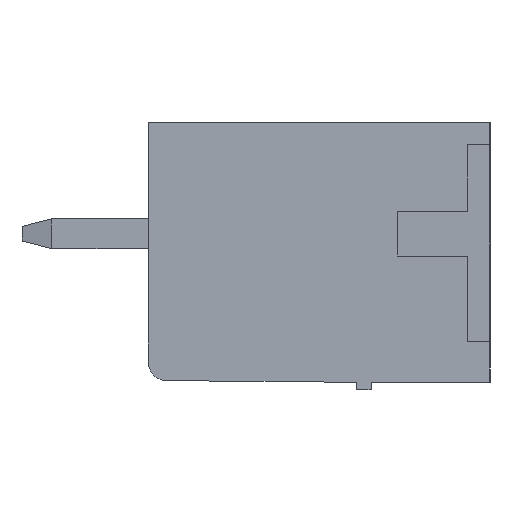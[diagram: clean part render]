
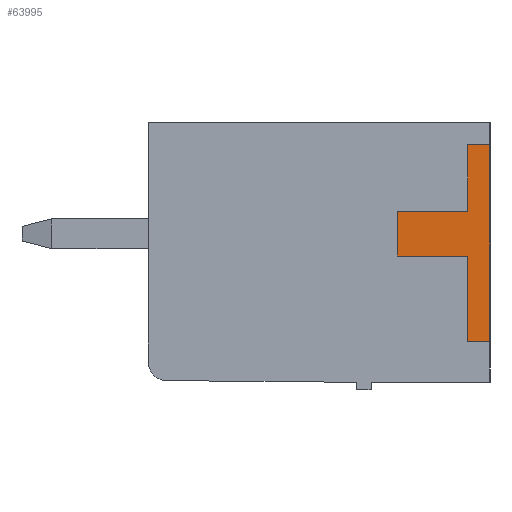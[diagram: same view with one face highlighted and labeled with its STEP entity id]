
A CAD part, left-side view. The second image highlights one B-rep face of the part: STEP entity #63995.
In plain terms, the highlighted planar face has unit normal (-1, 0, 0).
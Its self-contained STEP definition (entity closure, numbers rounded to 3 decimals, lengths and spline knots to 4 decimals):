
#100 = PLANE('',#101);
#101 = AXIS2_PLACEMENT_3D('',#102,#103,#104);
#102 = CARTESIAN_POINT('',(0.,0.,7.));
#103 = DIRECTION('',(0.,-1.,0.));
#104 = DIRECTION('',(0.,0.,-1.));
#128 = PLANE('',#129);
#129 = AXIS2_PLACEMENT_3D('',#130,#131,#132);
#130 = CARTESIAN_POINT('',(0.,0.,6.4));
#131 = DIRECTION('',(0.,0.,1.));
#132 = DIRECTION('',(0.,1.,0.));
#156 = PLANE('',#157);
#157 = AXIS2_PLACEMENT_3D('',#158,#159,#160);
#158 = CARTESIAN_POINT('',(0.,0.6,6.4));
#159 = DIRECTION('',(0.,1.,0.));
#160 = DIRECTION('',(0.,0.,-1.));
#184 = PLANE('',#185);
#185 = AXIS2_PLACEMENT_3D('',#186,#187,#188);
#186 = CARTESIAN_POINT('',(0.,0.6,4.6));
#187 = DIRECTION('',(0.,0.,1.));
#188 = DIRECTION('',(0.,1.,0.));
#212 = PLANE('',#213);
#213 = AXIS2_PLACEMENT_3D('',#214,#215,#216);
#214 = CARTESIAN_POINT('',(0.,2.5,4.6));
#215 = DIRECTION('',(0.,1.,0.));
#216 = DIRECTION('',(0.,0.,-1.));
#240 = PLANE('',#241);
#241 = AXIS2_PLACEMENT_3D('',#242,#243,#244);
#242 = CARTESIAN_POINT('',(0.,2.5,3.4));
#243 = DIRECTION('',(0.,0.,-1.));
#244 = DIRECTION('',(0.,-1.,0.));
#268 = PLANE('',#269);
#269 = AXIS2_PLACEMENT_3D('',#270,#271,#272);
#270 = CARTESIAN_POINT('',(0.,0.6,3.4));
#271 = DIRECTION('',(0.,1.,0.));
#272 = DIRECTION('',(0.,0.,-1.));
#296 = PLANE('',#297);
#297 = AXIS2_PLACEMENT_3D('',#298,#299,#300);
#298 = CARTESIAN_POINT('',(0.,0.6,1.1));
#299 = DIRECTION('',(0.,0.,-1.));
#300 = DIRECTION('',(0.,-1.,0.));
#7968 = VERTEX_POINT('',#7969);
#7969 = CARTESIAN_POINT('',(-0.2,0.,1.1));
#7990 = EDGE_CURVE('',#7968,#7991,#7993,.T.);
#7991 = VERTEX_POINT('',#7992);
#7992 = CARTESIAN_POINT('',(-0.2,0.,6.4));
#7993 = SURFACE_CURVE('',#7994,(#7998,#8005),.PCURVE_S1.);
#7994 = LINE('',#7995,#7996);
#7995 = CARTESIAN_POINT('',(-0.2,0.,1.1));
#7996 = VECTOR('',#7997,1.);
#7997 = DIRECTION('',(0.,0.,1.));
#7998 = PCURVE('',#100,#7999);
#7999 = DEFINITIONAL_REPRESENTATION('',(#8000),#8004);
#8000 = LINE('',#8001,#8002);
#8001 = CARTESIAN_POINT('',(5.9,-0.2));
#8002 = VECTOR('',#8003,1.);
#8003 = DIRECTION('',(-1.,0.));
#8004 = ( GEOMETRIC_REPRESENTATION_CONTEXT(2) 
PARAMETRIC_REPRESENTATION_CONTEXT() REPRESENTATION_CONTEXT('2D SPACE',''
  ) );
#8005 = PCURVE('',#8006,#8011);
#8006 = PLANE('',#8007);
#8007 = AXIS2_PLACEMENT_3D('',#8008,#8009,#8010);
#8008 = CARTESIAN_POINT('',(-0.2,0.,0.));
#8009 = DIRECTION('',(-1.,0.,0.));
#8010 = DIRECTION('',(0.,0.,1.));
#8011 = DEFINITIONAL_REPRESENTATION('',(#8012),#8016);
#8012 = LINE('',#8013,#8014);
#8013 = CARTESIAN_POINT('',(1.1,0.));
#8014 = VECTOR('',#8015,1.);
#8015 = DIRECTION('',(1.,0.));
#8016 = ( GEOMETRIC_REPRESENTATION_CONTEXT(2) 
PARAMETRIC_REPRESENTATION_CONTEXT() REPRESENTATION_CONTEXT('2D SPACE',''
  ) );
#63680 = VERTEX_POINT('',#63681);
#63681 = CARTESIAN_POINT('',(-0.2,0.6,1.1));
#63702 = EDGE_CURVE('',#63680,#7968,#63703,.T.);
#63703 = SURFACE_CURVE('',#63704,(#63708,#63715),.PCURVE_S1.);
#63704 = LINE('',#63705,#63706);
#63705 = CARTESIAN_POINT('',(-0.2,0.6,1.1));
#63706 = VECTOR('',#63707,1.);
#63707 = DIRECTION('',(0.,-1.,0.));
#63708 = PCURVE('',#296,#63709);
#63709 = DEFINITIONAL_REPRESENTATION('',(#63710),#63714);
#63710 = LINE('',#63711,#63712);
#63711 = CARTESIAN_POINT('',(0.,0.2));
#63712 = VECTOR('',#63713,1.);
#63713 = DIRECTION('',(1.,0.));
#63714 = ( GEOMETRIC_REPRESENTATION_CONTEXT(2) 
PARAMETRIC_REPRESENTATION_CONTEXT() REPRESENTATION_CONTEXT('2D SPACE',''
  ) );
#63715 = PCURVE('',#8006,#63716);
#63716 = DEFINITIONAL_REPRESENTATION('',(#63717),#63721);
#63717 = LINE('',#63718,#63719);
#63718 = CARTESIAN_POINT('',(1.1,0.6));
#63719 = VECTOR('',#63720,1.);
#63720 = DIRECTION('',(0.,-1.));
#63721 = ( GEOMETRIC_REPRESENTATION_CONTEXT(2) 
PARAMETRIC_REPRESENTATION_CONTEXT() REPRESENTATION_CONTEXT('2D SPACE',''
  ) );
#63729 = VERTEX_POINT('',#63730);
#63730 = CARTESIAN_POINT('',(-0.2,0.6,3.4));
#63751 = EDGE_CURVE('',#63729,#63680,#63752,.T.);
#63752 = SURFACE_CURVE('',#63753,(#63757,#63764),.PCURVE_S1.);
#63753 = LINE('',#63754,#63755);
#63754 = CARTESIAN_POINT('',(-0.2,0.6,3.4));
#63755 = VECTOR('',#63756,1.);
#63756 = DIRECTION('',(0.,0.,-1.));
#63757 = PCURVE('',#268,#63758);
#63758 = DEFINITIONAL_REPRESENTATION('',(#63759),#63763);
#63759 = LINE('',#63760,#63761);
#63760 = CARTESIAN_POINT('',(0.,0.2));
#63761 = VECTOR('',#63762,1.);
#63762 = DIRECTION('',(1.,0.));
#63763 = ( GEOMETRIC_REPRESENTATION_CONTEXT(2) 
PARAMETRIC_REPRESENTATION_CONTEXT() REPRESENTATION_CONTEXT('2D SPACE',''
  ) );
#63764 = PCURVE('',#8006,#63765);
#63765 = DEFINITIONAL_REPRESENTATION('',(#63766),#63770);
#63766 = LINE('',#63767,#63768);
#63767 = CARTESIAN_POINT('',(3.4,0.6));
#63768 = VECTOR('',#63769,1.);
#63769 = DIRECTION('',(-1.,0.));
#63770 = ( GEOMETRIC_REPRESENTATION_CONTEXT(2) 
PARAMETRIC_REPRESENTATION_CONTEXT() REPRESENTATION_CONTEXT('2D SPACE',''
  ) );
#63778 = VERTEX_POINT('',#63779);
#63779 = CARTESIAN_POINT('',(-0.2,2.5,3.4));
#63800 = EDGE_CURVE('',#63778,#63729,#63801,.T.);
#63801 = SURFACE_CURVE('',#63802,(#63806,#63813),.PCURVE_S1.);
#63802 = LINE('',#63803,#63804);
#63803 = CARTESIAN_POINT('',(-0.2,2.5,3.4));
#63804 = VECTOR('',#63805,1.);
#63805 = DIRECTION('',(0.,-1.,0.));
#63806 = PCURVE('',#240,#63807);
#63807 = DEFINITIONAL_REPRESENTATION('',(#63808),#63812);
#63808 = LINE('',#63809,#63810);
#63809 = CARTESIAN_POINT('',(0.,0.2));
#63810 = VECTOR('',#63811,1.);
#63811 = DIRECTION('',(1.,0.));
#63812 = ( GEOMETRIC_REPRESENTATION_CONTEXT(2) 
PARAMETRIC_REPRESENTATION_CONTEXT() REPRESENTATION_CONTEXT('2D SPACE',''
  ) );
#63813 = PCURVE('',#8006,#63814);
#63814 = DEFINITIONAL_REPRESENTATION('',(#63815),#63819);
#63815 = LINE('',#63816,#63817);
#63816 = CARTESIAN_POINT('',(3.4,2.5));
#63817 = VECTOR('',#63818,1.);
#63818 = DIRECTION('',(0.,-1.));
#63819 = ( GEOMETRIC_REPRESENTATION_CONTEXT(2) 
PARAMETRIC_REPRESENTATION_CONTEXT() REPRESENTATION_CONTEXT('2D SPACE',''
  ) );
#63827 = VERTEX_POINT('',#63828);
#63828 = CARTESIAN_POINT('',(-0.2,2.5,4.6));
#63849 = EDGE_CURVE('',#63827,#63778,#63850,.T.);
#63850 = SURFACE_CURVE('',#63851,(#63855,#63862),.PCURVE_S1.);
#63851 = LINE('',#63852,#63853);
#63852 = CARTESIAN_POINT('',(-0.2,2.5,4.6));
#63853 = VECTOR('',#63854,1.);
#63854 = DIRECTION('',(0.,0.,-1.));
#63855 = PCURVE('',#212,#63856);
#63856 = DEFINITIONAL_REPRESENTATION('',(#63857),#63861);
#63857 = LINE('',#63858,#63859);
#63858 = CARTESIAN_POINT('',(0.,0.2));
#63859 = VECTOR('',#63860,1.);
#63860 = DIRECTION('',(1.,0.));
#63861 = ( GEOMETRIC_REPRESENTATION_CONTEXT(2) 
PARAMETRIC_REPRESENTATION_CONTEXT() REPRESENTATION_CONTEXT('2D SPACE',''
  ) );
#63862 = PCURVE('',#8006,#63863);
#63863 = DEFINITIONAL_REPRESENTATION('',(#63864),#63868);
#63864 = LINE('',#63865,#63866);
#63865 = CARTESIAN_POINT('',(4.6,2.5));
#63866 = VECTOR('',#63867,1.);
#63867 = DIRECTION('',(-1.,0.));
#63868 = ( GEOMETRIC_REPRESENTATION_CONTEXT(2) 
PARAMETRIC_REPRESENTATION_CONTEXT() REPRESENTATION_CONTEXT('2D SPACE',''
  ) );
#63876 = VERTEX_POINT('',#63877);
#63877 = CARTESIAN_POINT('',(-0.2,0.6,4.6));
#63898 = EDGE_CURVE('',#63876,#63827,#63899,.T.);
#63899 = SURFACE_CURVE('',#63900,(#63904,#63911),.PCURVE_S1.);
#63900 = LINE('',#63901,#63902);
#63901 = CARTESIAN_POINT('',(-0.2,0.6,4.6));
#63902 = VECTOR('',#63903,1.);
#63903 = DIRECTION('',(0.,1.,0.));
#63904 = PCURVE('',#184,#63905);
#63905 = DEFINITIONAL_REPRESENTATION('',(#63906),#63910);
#63906 = LINE('',#63907,#63908);
#63907 = CARTESIAN_POINT('',(0.,0.2));
#63908 = VECTOR('',#63909,1.);
#63909 = DIRECTION('',(1.,0.));
#63910 = ( GEOMETRIC_REPRESENTATION_CONTEXT(2) 
PARAMETRIC_REPRESENTATION_CONTEXT() REPRESENTATION_CONTEXT('2D SPACE',''
  ) );
#63911 = PCURVE('',#8006,#63912);
#63912 = DEFINITIONAL_REPRESENTATION('',(#63913),#63917);
#63913 = LINE('',#63914,#63915);
#63914 = CARTESIAN_POINT('',(4.6,0.6));
#63915 = VECTOR('',#63916,1.);
#63916 = DIRECTION('',(0.,1.));
#63917 = ( GEOMETRIC_REPRESENTATION_CONTEXT(2) 
PARAMETRIC_REPRESENTATION_CONTEXT() REPRESENTATION_CONTEXT('2D SPACE',''
  ) );
#63925 = VERTEX_POINT('',#63926);
#63926 = CARTESIAN_POINT('',(-0.2,0.6,6.4));
#63947 = EDGE_CURVE('',#63925,#63876,#63948,.T.);
#63948 = SURFACE_CURVE('',#63949,(#63953,#63960),.PCURVE_S1.);
#63949 = LINE('',#63950,#63951);
#63950 = CARTESIAN_POINT('',(-0.2,0.6,6.4));
#63951 = VECTOR('',#63952,1.);
#63952 = DIRECTION('',(0.,0.,-1.));
#63953 = PCURVE('',#156,#63954);
#63954 = DEFINITIONAL_REPRESENTATION('',(#63955),#63959);
#63955 = LINE('',#63956,#63957);
#63956 = CARTESIAN_POINT('',(0.,0.2));
#63957 = VECTOR('',#63958,1.);
#63958 = DIRECTION('',(1.,0.));
#63959 = ( GEOMETRIC_REPRESENTATION_CONTEXT(2) 
PARAMETRIC_REPRESENTATION_CONTEXT() REPRESENTATION_CONTEXT('2D SPACE',''
  ) );
#63960 = PCURVE('',#8006,#63961);
#63961 = DEFINITIONAL_REPRESENTATION('',(#63962),#63966);
#63962 = LINE('',#63963,#63964);
#63963 = CARTESIAN_POINT('',(6.4,0.6));
#63964 = VECTOR('',#63965,1.);
#63965 = DIRECTION('',(-1.,0.));
#63966 = ( GEOMETRIC_REPRESENTATION_CONTEXT(2) 
PARAMETRIC_REPRESENTATION_CONTEXT() REPRESENTATION_CONTEXT('2D SPACE',''
  ) );
#63974 = EDGE_CURVE('',#7991,#63925,#63975,.T.);
#63975 = SURFACE_CURVE('',#63976,(#63980,#63987),.PCURVE_S1.);
#63976 = LINE('',#63977,#63978);
#63977 = CARTESIAN_POINT('',(-0.2,0.,6.4));
#63978 = VECTOR('',#63979,1.);
#63979 = DIRECTION('',(0.,1.,0.));
#63980 = PCURVE('',#128,#63981);
#63981 = DEFINITIONAL_REPRESENTATION('',(#63982),#63986);
#63982 = LINE('',#63983,#63984);
#63983 = CARTESIAN_POINT('',(0.,0.2));
#63984 = VECTOR('',#63985,1.);
#63985 = DIRECTION('',(1.,0.));
#63986 = ( GEOMETRIC_REPRESENTATION_CONTEXT(2) 
PARAMETRIC_REPRESENTATION_CONTEXT() REPRESENTATION_CONTEXT('2D SPACE',''
  ) );
#63987 = PCURVE('',#8006,#63988);
#63988 = DEFINITIONAL_REPRESENTATION('',(#63989),#63993);
#63989 = LINE('',#63990,#63991);
#63990 = CARTESIAN_POINT('',(6.4,0.));
#63991 = VECTOR('',#63992,1.);
#63992 = DIRECTION('',(0.,1.));
#63993 = ( GEOMETRIC_REPRESENTATION_CONTEXT(2) 
PARAMETRIC_REPRESENTATION_CONTEXT() REPRESENTATION_CONTEXT('2D SPACE',''
  ) );
#63995 = ADVANCED_FACE('',(#63996),#8006,.T.);
#63996 = FACE_BOUND('',#63997,.F.);
#63997 = EDGE_LOOP('',(#63998,#63999,#64000,#64001,#64002,#64003,#64004,
    #64005));
#63998 = ORIENTED_EDGE('',*,*,#63974,.F.);
#63999 = ORIENTED_EDGE('',*,*,#7990,.F.);
#64000 = ORIENTED_EDGE('',*,*,#63702,.F.);
#64001 = ORIENTED_EDGE('',*,*,#63751,.F.);
#64002 = ORIENTED_EDGE('',*,*,#63800,.F.);
#64003 = ORIENTED_EDGE('',*,*,#63849,.F.);
#64004 = ORIENTED_EDGE('',*,*,#63898,.F.);
#64005 = ORIENTED_EDGE('',*,*,#63947,.F.);
